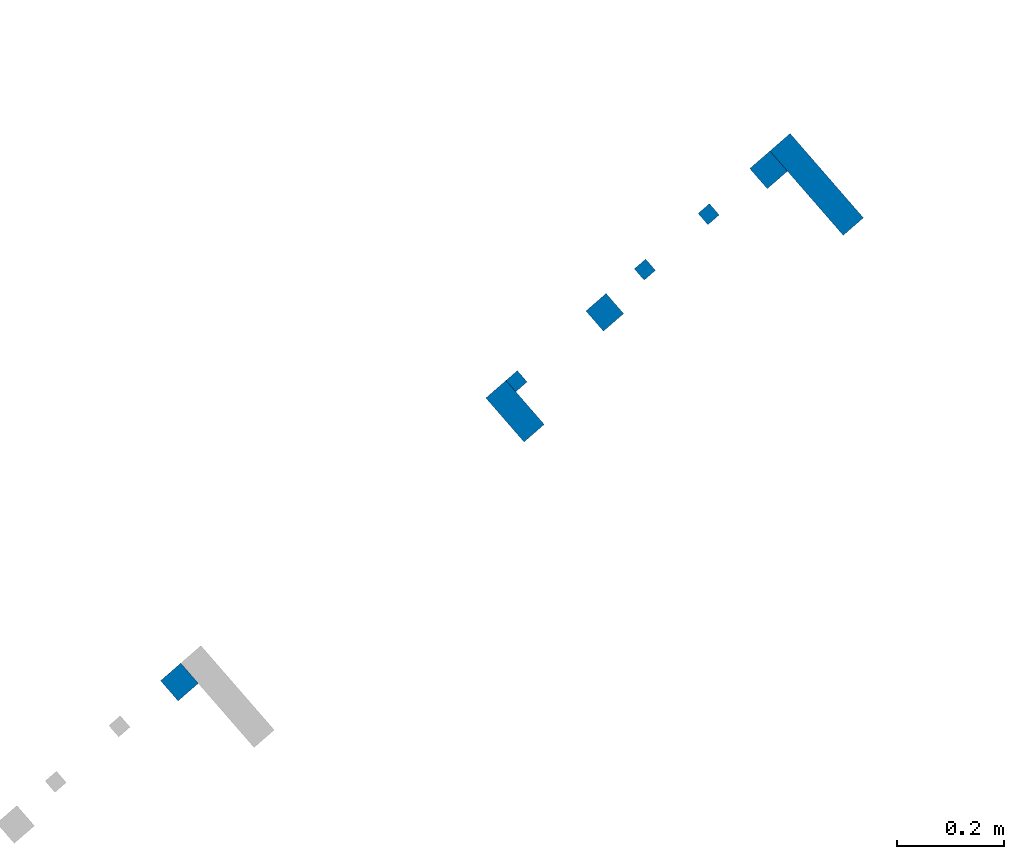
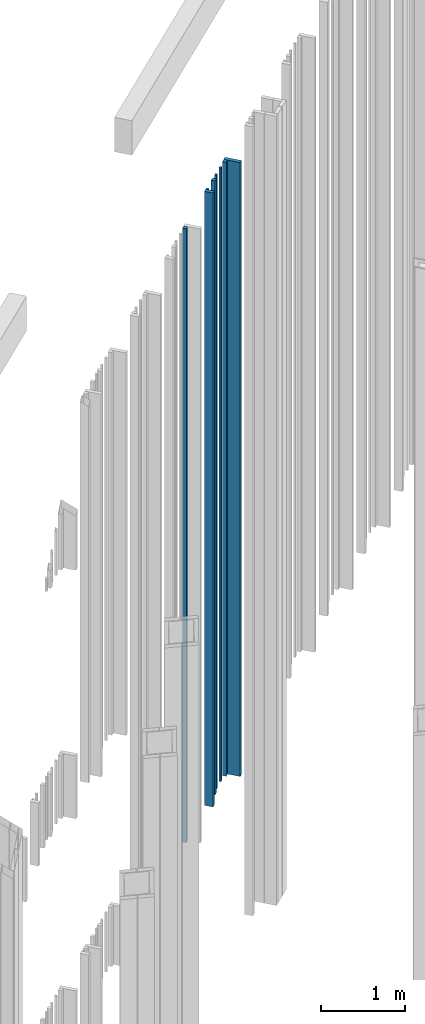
# One storey, part 244 of 390: 8 walls.
"""IFC2X3 building model written with IfcOpenShell, lengths in millimetres."""

from ifc_helpers import new_model, entity, si_unit, converted_unit, derived_unit, money_unit, direction, frame, origin_with_axes, place, context, subcontext, project, spatial, faceted_brep, material, type_object, element, save


model = new_model("IFC2X3")

# Units and contexts
model_context = context("Model", 3, precision=1e-05, world=origin_with_axes(), true_north=direction((0.0, 1.0)))
body_context = subcontext(model_context, "Body", "Model", "MODEL_VIEW")
ifc_project = project(units=[si_unit("LENGTHUNIT", "METRE", prefix="MILLI"), si_unit("AREAUNIT", "SQUARE_METRE"), si_unit("VOLUMEUNIT", "CUBIC_METRE"), converted_unit("PLANEANGLEUNIT", "DEGREE", entity("IfcPlaneAngleMeasure", 0.0174532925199), si_unit("PLANEANGLEUNIT", "RADIAN"), dimensions=[0, 0, 0, 0, 0, 0, 0]), si_unit("SOLIDANGLEUNIT", "STERADIAN"), money_unit("EUR"), converted_unit("TIMEUNIT", "Year", entity("IfcTimeMeasure", 31556926.0), si_unit("TIMEUNIT", "SECOND"), dimensions=[0, 0, 1, 0, 0, 0, 0]), si_unit("MASSUNIT", "GRAM", prefix="KILO"), si_unit("THERMODYNAMICTEMPERATUREUNIT", "DEGREE_CELSIUS"), si_unit("LUMINOUSINTENSITYUNIT", "LUMEN"), si_unit("ENERGYUNIT", "JOULE", prefix="MEGA"), derived_unit("THERMALCONDUCTANCEUNIT", [(si_unit("POWERUNIT", "WATT"), 1), (si_unit("LENGTHUNIT", "METRE"), -1), (si_unit("THERMODYNAMICTEMPERATUREUNIT", "KELVIN"), -1)]), derived_unit("SPECIFICHEATCAPACITYUNIT", [(si_unit("ENERGYUNIT", "JOULE"), 1), (si_unit("MASSUNIT", "GRAM", prefix="KILO"), -1), (si_unit("THERMODYNAMICTEMPERATUREUNIT", "KELVIN"), -1)]), derived_unit("MASSDENSITYUNIT", [(si_unit("MASSUNIT", "GRAM", prefix="KILO"), 1), (si_unit("VOLUMEUNIT", "CUBIC_METRE"), -1)])], contexts=[model_context])

# Site, building, storey
site_placement = place(None, origin_with_axes())
site = spatial("IfcSite", under=ifc_project, at=site_placement, Name="Site", CompositionType="ELEMENT")
building_placement = place(site_placement, origin_with_axes())
building = spatial("IfcBuilding", under=site, at=building_placement, Name="Building", CompositionType="ELEMENT")
storey_placement = place(building_placement, origin_with_axes())
storey = spatial("IfcBuildingStorey", under=building, at=storey_placement, Name="1 korrus", CompositionType="ELEMENT", Elevation=0.0)

# Walls
ifc_material = material(Name="Site specified")
wall_type = type_object("IfcWallType", Name="Puitfassaadi ribistik", PredefinedType="NOTDEFINED")
wall_1_placement = place(storey_placement, frame((157166.706963, 81148.2121101, 935.000018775), z_axis=(0.0, 0.0, 1.0), x_axis=(-0.754709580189, -0.65605902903, 0.0)))
element("IfcWall", 1, at=wall_1_placement, inside=storey, type_object=wall_type, material=ifc_material, Name="Site specified", context=body_context, shape_type="Brep", body=[
    faceted_brep([(-25.0, -104.5, 8929.99998122), (-25.0, -104.5, 0.0), (25.0, -104.5, 0.0), (25.0, -104.5, 8929.99998122), (-25.0, 104.5, 8929.99998122), (-25.0, 104.5, 0.0), (25.0, 104.5, 0.0), (25.0, 104.5, 8929.99998122)], [[[0, 1, 2, 3]], [[4, 5, 1, 0]], [[2, 1, 5, 6]], [[3, 2, 6, 7]], [[4, 0, 3, 7]], [[7, 6, 5, 4]]]),
])
for number, where, z_axis, x_axis, name in (
    (2, (156770.402701, 80909.0486044, 935.000018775), (0.0, 0.0, 1.0), (-0.754709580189, -0.65605902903, 0.0), "Site specified"),
    (3, (157076.814791, 81175.4085702, 935.000018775), (0.0, 0.0, 1.0), (-0.754709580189, -0.65605902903, 0.0), "Site specified"),
):
    element("IfcWall", number, at=place(storey_placement, frame(where, z_axis=z_axis, x_axis=x_axis)), inside=storey, type_object=wall_type, material=ifc_material, Name=name, context=body_context, shape_type="Brep", body=[
        faceted_brep([(-25.0, -25.0, 8929.99998122), (-25.0, -25.0, 0.0), (25.0, -25.0, 0.0), (25.0, -25.0, 8929.99998122), (-25.0, 25.0, 8929.99998122), (-25.0, 25.0, 0.0), (25.0, 25.0, 0.0), (25.0, 25.0, 8929.99998122)], [[[0, 1, 2, 3]], [[4, 5, 1, 0]], [[2, 1, 5, 6]], [[3, 2, 6, 7]], [[4, 0, 3, 7]], [[7, 6, 5, 4]]]),
    ])
for number, where, z_axis, x_axis, name in (
    (4, (156845.449396, 80988.860844, 935.000018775), (0.0, 0.0, 1.0), (-0.754709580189, -0.65605902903, 0.0), "Site specified"),
    (5, (156605.45175, 80780.2340727, 935.000018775), (0.0, 0.0, 1.0), (-0.754709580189, -0.65605902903, 0.0), "Site specified"),
):
    element("IfcWall", number, at=place(storey_placement, frame(where, z_axis=z_axis, x_axis=x_axis)), inside=storey, type_object=wall_type, material=ifc_material, Name=name, context=body_context, shape_type="Brep", body=[
        faceted_brep([(-14.0, -14.0, 8929.99998122), (-14.0, -14.0, 0.0), (14.0, -14.0, 0.0), (14.0, -14.0, 8929.99998122), (-14.0, 14.0, 8929.99998122), (-14.0, 14.0, 0.0), (14.0, 14.0, 0.0), (14.0, 14.0, 8929.99998122)], [[[0, 1, 2, 3]], [[4, 5, 1, 0]], [[2, 1, 5, 6]], [[3, 2, 6, 7]], [[4, 0, 3, 7]], [[7, 6, 5, 4]]]),
    ])
wall_2_placement = place(storey_placement, frame((156602.588467, 80724.0820326, 935.000018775), z_axis=(0.0, 0.0, 1.0), x_axis=(-0.754709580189, -0.65605902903, 0.0)))
element("IfcWall", 6, at=wall_2_placement, inside=storey, type_object=wall_type, material=ifc_material, Name="Site specified", context=body_context, shape_type="Brep", body=[
    faceted_brep([(-25.0, -54.5, 8929.99998122), (-25.0, -54.5, 0.0), (25.0, -54.5, 0.0), (25.0, -54.5, 8929.99998122), (-25.0, 54.5, 8929.99998122), (-25.0, 54.5, 0.0), (25.0, 54.5, 0.0), (25.0, 54.5, 8929.99998122)], [[[0, 1, 2, 3]], [[4, 5, 1, 0]], [[2, 1, 5, 6]], [[3, 2, 6, 7]], [[4, 0, 3, 7]], [[7, 6, 5, 4]]]),
])
wall_3_placement = place(storey_placement, frame((155974.938801, 80217.5623855, 935.000018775), z_axis=(0.0, 0.0, 1.0), x_axis=(-0.754709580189, -0.65605902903, 0.0)))
element("IfcWall", 7, at=wall_3_placement, inside=storey, type_object=wall_type, material=ifc_material, Name="Site specified", context=body_context, shape_type="Brep", body=[
    faceted_brep([(-25.0, -25.0, 8929.99998122), (-25.0, -25.0, 0.0), (25.0, -25.0, 0.0), (25.0, -25.0, 8929.99998122), (-25.0, 25.0, 8929.99998122), (-25.0, 25.0, 0.0), (25.0, 25.0, 0.0), (25.0, 25.0, 8929.99998122)], [[[0, 1, 2, 3]], [[4, 5, 1, 0]], [[2, 1, 5, 6]], [[3, 2, 6, 7]], [[4, 0, 3, 7]], [[7, 6, 5, 4]]]),
])
wall_4_placement = place(storey_placement, frame((156964.69351, 81092.5181706, 935.000018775), z_axis=(0.0, 0.0, 1.0), x_axis=(-0.754709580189, -0.65605902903, 0.0)))
element("IfcWall", 8, at=wall_4_placement, inside=storey, type_object=wall_type, material=ifc_material, Name="Site specified", context=body_context, shape_type="Brep", body=[
    faceted_brep([(-14.0, -14.0, 8929.99998122), (-14.0, -14.0, 0.0), (14.0, -14.0, 0.0), (14.0, -14.0, 8929.99998122), (-14.0, 14.0, 8929.99998122), (-14.0, 14.0, 0.0), (14.0, 14.0, 0.0), (14.0, 14.0, 8929.99998122)], [[[0, 1, 2, 3]], [[4, 5, 1, 0]], [[2, 1, 5, 6]], [[3, 2, 6, 7]], [[4, 0, 3, 7]], [[7, 6, 5, 4]]]),
])

save(model, "model.ifc")
